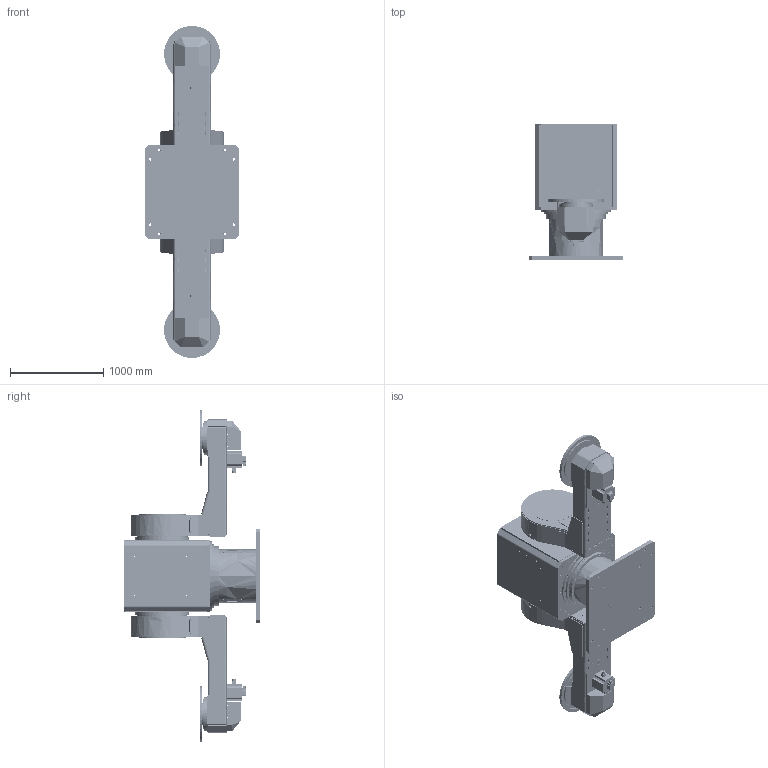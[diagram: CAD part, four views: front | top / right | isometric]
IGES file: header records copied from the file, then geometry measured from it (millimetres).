
Start section: SolidWorks IGES file using analytic representation for surfaces
Global section: file name: S:\Standardpositionierer\3D-Modelle (reduziert)\R2L\140679red\140679red.IGS; native system: SolidWorks 2008; preprocessor: SolidWorks 2008; author: loeschner; date: 081027.133314; units: millimetre
Bounding box: 1000 x 1464 x 3564.8 mm (x, y, z)
Surface area: 33011599.6 mm2 (no closed solid volume)
Topology: 0 solids, 0 shells, 4321 faces, 83389 edges, 83033 vertices
Faces by surface type: revolution 3170, bspline 1151
